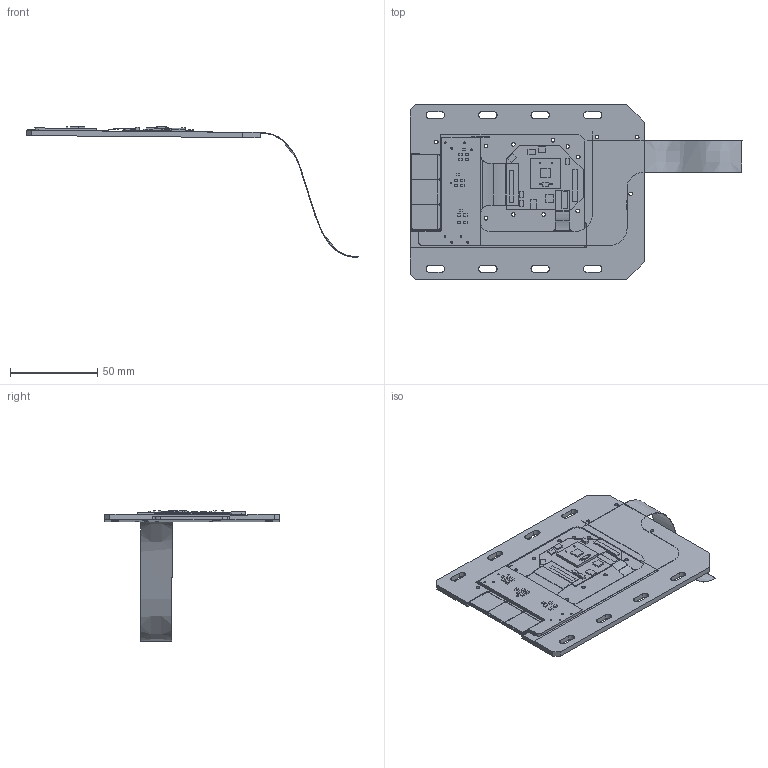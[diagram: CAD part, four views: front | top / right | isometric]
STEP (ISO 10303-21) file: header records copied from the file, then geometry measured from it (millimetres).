
FILE_DESCRIPTION(/* description */ (''),/* implementation_level */ '2;1');
FILE_NAME(/* name */ 'Al_board_assembly_v3.stp',/* time_stamp */ '2024-06-26T16:50:43+02:00',/* author */ (''),/* organization */ (''),/* preprocessor_version */ 'ST-DEVELOPER v19.4',/* originating_system */ 'SIEMENS PLM Software NX2306.5001',/* authorisation */ '');
FILE_SCHEMA (('AUTOMOTIVE_DESIGN { 1 0 10303 214 3 1 1 1 }'));
Length unit declared in the file: millimetre
Products named in the file (1): Al_board_assembly_v3_objects
Bounding box: 189.99 x 100 x 74.85 mm (x, y, z)
Volume: 38647.8 mm3; surface area: 46812 mm2
Topology: 8 solids, 8 shells, 925 faces, 2224 edges, 1484 vertices
Faces by surface type: plane 780, cylinder 140, sphere 2, bspline 2, cone 1
Full cylindrical faces by diameter (mm): 0.005 x6, 0.015 x8, 0.05 x60, 1 x8, 2.05 x13
Entity records: 28252 total; most frequent: CARTESIAN_POINT 4941, ORIENTED_EDGE 4402, DIRECTION 4308, EDGE_CURVE 2201, LINE 1908, VECTOR 1908, VERTEX_POINT 1475, AXIS2_PLACEMENT_3D 1200
